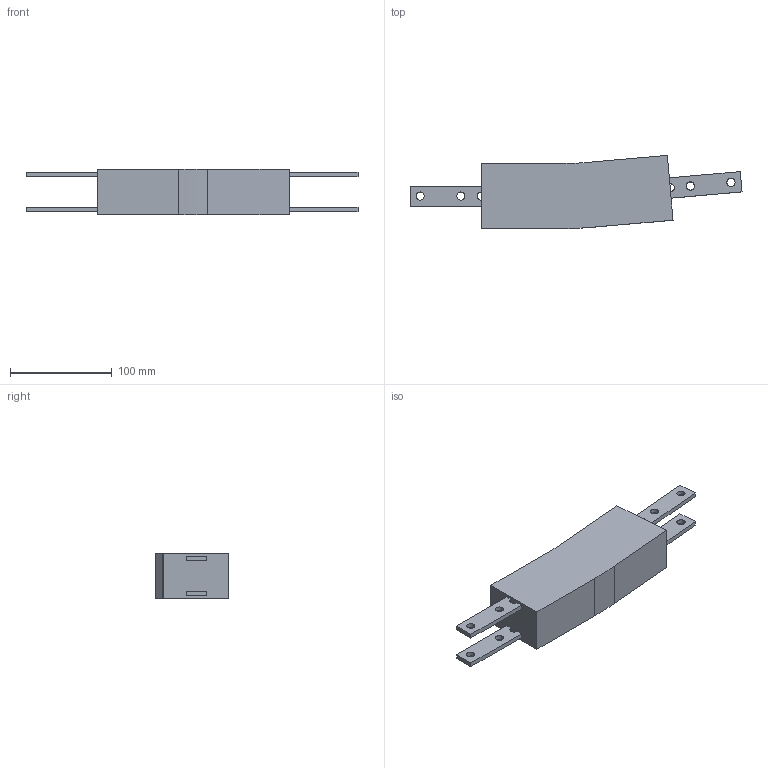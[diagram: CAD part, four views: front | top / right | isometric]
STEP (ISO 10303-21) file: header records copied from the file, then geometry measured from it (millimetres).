
FILE_DESCRIPTION (( 'STEP AP203' ), '1' );
FILE_NAME ('FKVB5R300.STEP', '2010-02-23T10:09:58', ( '.' ), ( '' ), 'SwSTEP 2.0', 'SolidWorks 2009', '' );
FILE_SCHEMA (( 'CONFIG_CONTROL_DESIGN' ));
Length unit declared in the file: millimetre
Products named in the file (1): FKVB5R300
Bounding box: 326.46 x 71.99 x 45 mm (x, y, z)
Volume: 559136.3 mm3; surface area: 60336.9 mm2
Topology: 1 solids, 1 shells, 54 faces, 156 edges, 104 vertices
Faces by surface type: plane 28, cylinder 26
Entity records: 1917 total; most frequent: DIRECTION 318, CARTESIAN_POINT 315, ORIENTED_EDGE 312, EDGE_CURVE 156, AXIS2_PLACEMENT_3D 107, VERTEX_POINT 104, VECTOR 104, LINE 104
